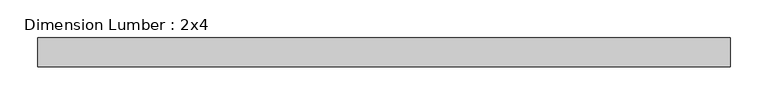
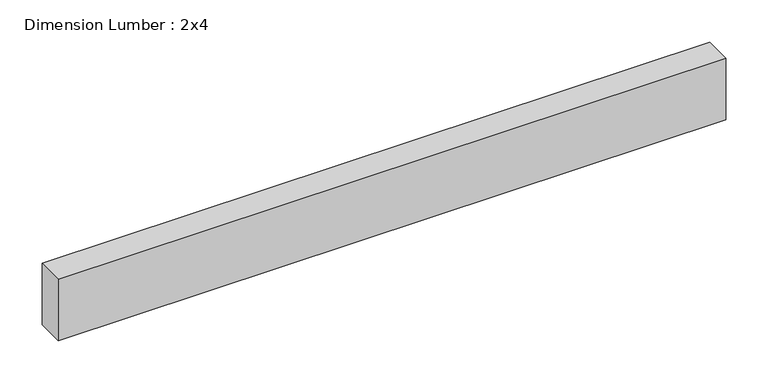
"""IFC4 building model written with IfcOpenShell, lengths in millimetres: beam geometry, Dimension Lumber : 2x4."""

from ifc_helpers import new_model, si_unit, frame, origin, place, context, project, spatial, polyline, outline, extrude, source, transform, mapped, element, save


def dimension_lumber_2x4_ebce0c8a(model_context):
    return source(origin(), model_context, "Body", "SweptSolid", [
        extrude(outline(polyline([(457.1999994, 19.05), (457.1999994, -19.05), (-457.1999994, -19.05), (-457.1999994, 19.05), (457.1999994, 19.05)])), frame((0.0, 0.0, -44.45), z_axis=(0.0, 0.0, 1.0), x_axis=(1.0, 0.0, 0.0)), (0.0, 0.0, 1.0), 88.9),
    ])


if __name__ == "__main__":
    model = new_model("IFC4")
    model_context = context("Model", 3, world=origin())
    ifc_project = project(units=[si_unit("LENGTHUNIT", "METRE", prefix="MILLI")], contexts=[model_context])
    site = spatial("IfcSite", under=ifc_project)
    building = spatial("IfcBuilding", under=site)
    placement = place(None, origin())
    dimension_lumber_2x4_shape = dimension_lumber_2x4_ebce0c8a(model_context)
    element("IfcBeam", 1, ObjectType="Dimension Lumber : 2x4", at=placement, inside=building, context=model_context, shape_type="MappedRepresentation", body=[
        mapped(dimension_lumber_2x4_shape, transform((0.0, 0.0, 0.0), x_axis=(1.0, 0.0, 0.0), y_axis=(0.0, 1.0, 0.0), z_axis=(0.0, 0.0, 1.0))),
    ])
    save(model, "model.ifc")
